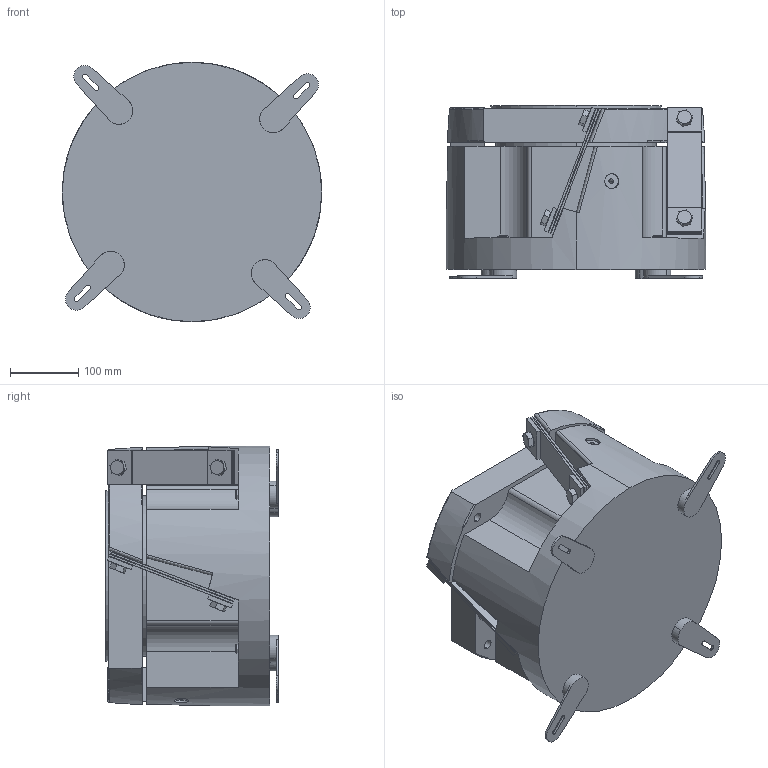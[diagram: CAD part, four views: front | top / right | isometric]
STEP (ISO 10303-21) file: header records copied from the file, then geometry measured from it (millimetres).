
FILE_DESCRIPTION (( 'STEP AP214' ), '1' );
FILE_NAME ('JM 400.STEP', '2022-04-21T04:23:27', ( '' ), ( '' ), 'SwSTEP 2.0', 'SolidWorks 2018', '' );
FILE_SCHEMA (( 'AUTOMOTIVE_DESIGN' ));
Length unit declared in the file: millimetre
Products named in the file (1): JM 400
Bounding box: 380 x 253 x 380 mm (x, y, z)
Volume: 21704007 mm3; surface area: 1103761.7 mm2
Topology: 50 solids, 64 shells, 895 faces, 2075 edges, 1358 vertices
Faces by surface type: plane 525, cylinder 262, cone 88, torus 12, bspline 8
Entity records: 28741 total; most frequent: CARTESIAN_POINT 7272, DIRECTION 4275, ORIENTED_EDGE 4150, EDGE_CURVE 2075, AXIS2_PLACEMENT_3D 1553, VERTEX_POINT 1358, LINE 1169, VECTOR 1169
